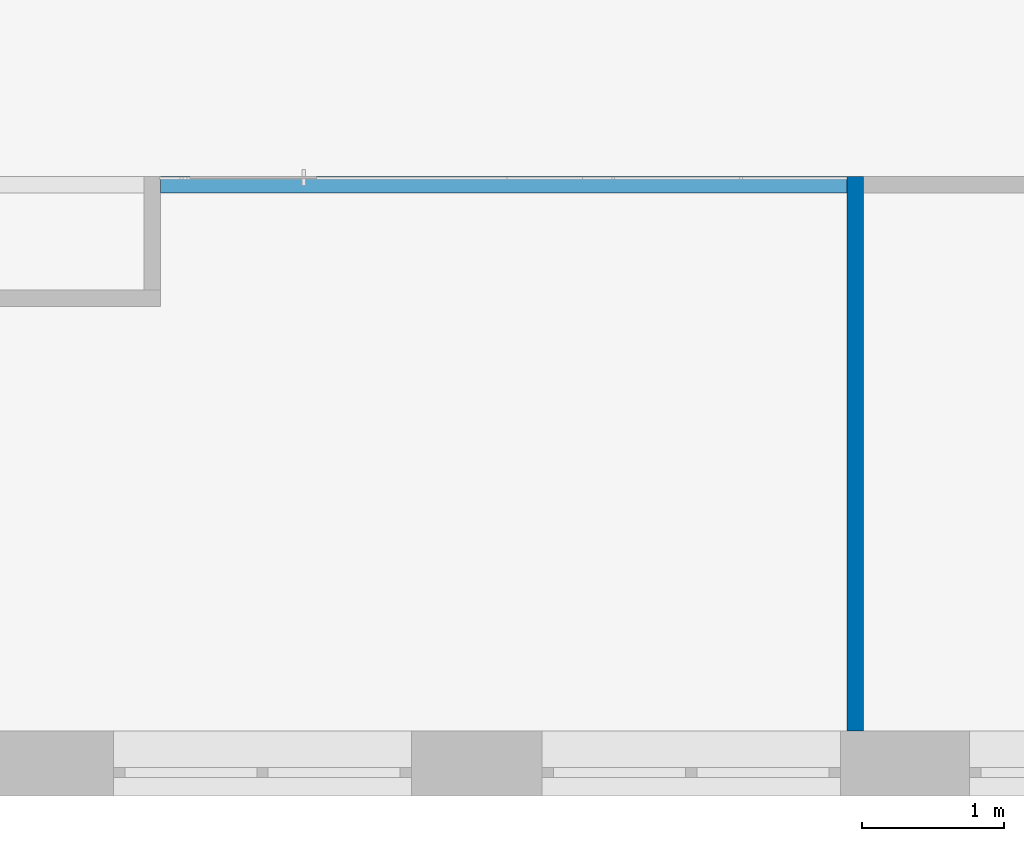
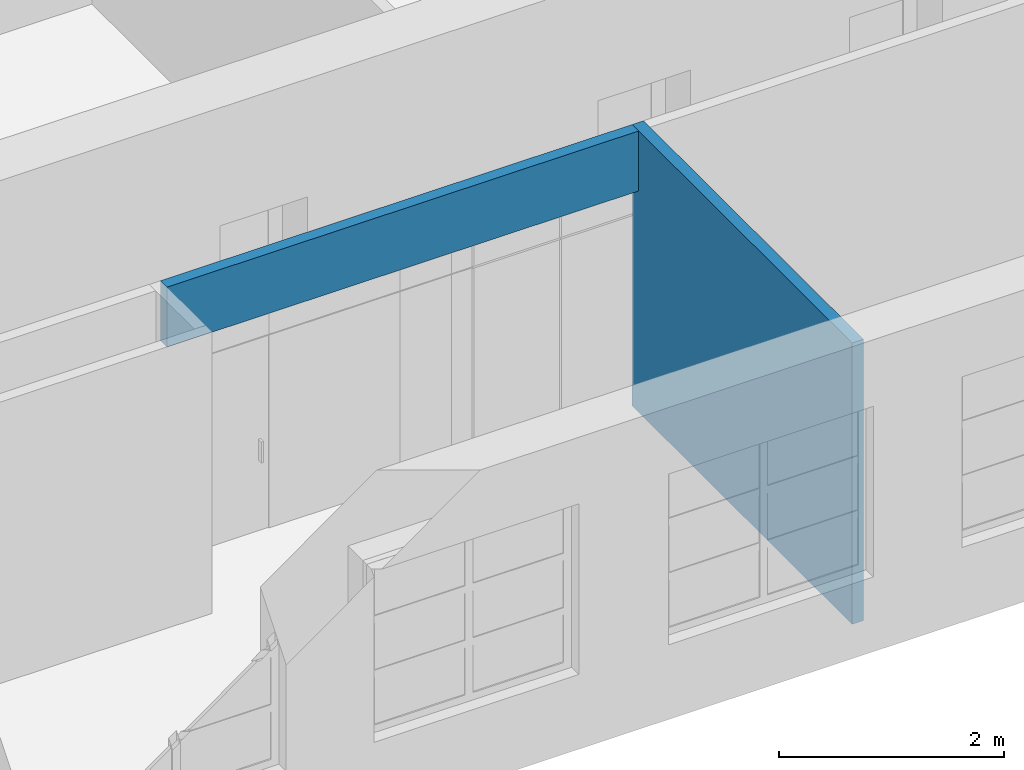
# One storey, part 48 of 66: 2 walls, 1 opening.
"""IFC2X3 building model written with IfcOpenShell, lengths in millimetres."""

from ifc_helpers import new_model, entity, si_unit, converted_unit, derived_unit, direction, frame, frame_2d, origin, place, context, subcontext, project, spatial, rectangle, extrude, material, layer, layer_set, layer_usage, type_object, element, save


model = new_model("IFC2X3")

# Units and contexts
model_context = context("Model", 3, precision=0.01, world=origin(), true_north=direction((6.12303176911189e-17, 1.0)))
body_context = subcontext(model_context, "Body", "Model", "MODEL_VIEW")
ifc_project = project(units=[si_unit("LENGTHUNIT", "METRE", prefix="MILLI"), si_unit("AREAUNIT", "SQUARE_METRE"), si_unit("VOLUMEUNIT", "CUBIC_METRE"), converted_unit("PLANEANGLEUNIT", "DEGREE", entity("IfcRatioMeasure", 0.0174532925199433), si_unit("PLANEANGLEUNIT", "RADIAN"), dimensions=[0, 0, 0, 0, 0, 0, 0]), si_unit("MASSUNIT", "GRAM", prefix="KILO"), derived_unit("MASSDENSITYUNIT", [(si_unit("MASSUNIT", "GRAM", prefix="KILO"), 1), (si_unit("LENGTHUNIT", "METRE"), -3)]), si_unit("TIMEUNIT", "SECOND"), si_unit("FREQUENCYUNIT", "HERTZ"), si_unit("THERMODYNAMICTEMPERATUREUNIT", "DEGREE_CELSIUS"), derived_unit("THERMALTRANSMITTANCEUNIT", [(si_unit("MASSUNIT", "GRAM", prefix="KILO"), 1), (si_unit("THERMODYNAMICTEMPERATUREUNIT", "KELVIN"), -1), (si_unit("TIMEUNIT", "SECOND"), -3)]), derived_unit("VOLUMETRICFLOWRATEUNIT", [(si_unit("LENGTHUNIT", "METRE"), 3), (si_unit("TIMEUNIT", "SECOND"), -1)]), si_unit("ELECTRICCURRENTUNIT", "AMPERE"), si_unit("ELECTRICVOLTAGEUNIT", "VOLT"), si_unit("POWERUNIT", "WATT"), si_unit("FORCEUNIT", "NEWTON", prefix="KILO"), si_unit("ILLUMINANCEUNIT", "LUX"), si_unit("LUMINOUSFLUXUNIT", "LUMEN"), si_unit("LUMINOUSINTENSITYUNIT", "CANDELA"), derived_unit("USERDEFINED", [(si_unit("MASSUNIT", "GRAM", prefix="KILO"), -1), (si_unit("LENGTHUNIT", "METRE"), -2), (si_unit("TIMEUNIT", "SECOND"), 3), (si_unit("LUMINOUSFLUXUNIT", "LUMEN"), 1)]), derived_unit("LINEARVELOCITYUNIT", [(si_unit("LENGTHUNIT", "METRE"), 1), (si_unit("TIMEUNIT", "SECOND"), -1)]), si_unit("PRESSUREUNIT", "PASCAL"), derived_unit("USERDEFINED", [(si_unit("LENGTHUNIT", "METRE"), -2), (si_unit("MASSUNIT", "GRAM", prefix="KILO"), 1), (si_unit("TIMEUNIT", "SECOND"), -2)])], contexts=[model_context])

# Site, building, storey
site_placement = place(None, frame((-151.875543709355, 2715.0, 0.0)))
site = spatial("IfcSite", under=ifc_project, at=site_placement, Name="Surface", CompositionType="ELEMENT")
building_placement = place(site_placement, origin())
building = spatial("IfcBuilding", under=site, at=building_placement, CompositionType="ELEMENT")
storey_placement = place(building_placement, frame((0.0, 0.0, 3350.0)))
storey = spatial("IfcBuildingStorey", under=building, at=storey_placement, Name="2 korrus", CompositionType="ELEMENT", Elevation=3350.00000000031)

# Wall
ifc_material_1 = material(Name="__Kips GN13_tava")
ifc_layer_1 = layer(ifc_material_1, 12.5)
ifc_layer_2 = layer(ifc_material_1, 12.5)
ifc_material_2 = material(Name="__Soojustus EPS")
ifc_layer_3 = layer(ifc_material_2, 66.0)
ifc_layer_4 = layer(ifc_material_1, 12.5)
ifc_layer_5 = layer(ifc_material_1, 12.5)
ifc_layer_set_1 = layer_set([ifc_layer_1, ifc_layer_2, ifc_layer_3, ifc_layer_4, ifc_layer_5], Name="Basic Wall:SS-3_Kipssein tava ruumide vahel")
ifc_layer_usage_1 = layer_usage(ifc_layer_set_1, "AXIS2", "NEGATIVE", 58.0)
wall_type_1 = type_object("IfcWallType", Name="Basic Wall:SS-3_Kipssein tava ruumide vahel", PredefinedType="STANDARD", material=ifc_layer_set_1)
wall_1_placement = place(storey_placement, frame((13173.5647264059, 4307.04493399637, 2400.0)))
element("IfcWallStandardCase", 1, at=wall_1_placement, inside=storey, type_object=wall_type_1, material=ifc_layer_usage_1, Name="Basic Wall:SS-3_Kipssein tava ruumide vahel", ObjectType="Basic Wall:SS-3_Kipssein tava ruumide vahel", context=body_context, shape_type="SweptSolid", body=[
    extrude(rectangle(XDim=4835.00000000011, YDim=116.0, at=frame_2d((2475.50000000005, -2.73558953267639e-13), x_axis=(-1.0, 0.0))), origin(), (0.0, 0.0, 1.0), 650.432033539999),
])

# Wall, opening
ifc_layer_6 = layer(ifc_material_1, 12.5)
ifc_layer_7 = layer(ifc_material_1, 12.5)
ifc_layer_8 = layer(ifc_material_2, 66.0)
ifc_layer_9 = layer(ifc_material_1, 12.5)
ifc_layer_10 = layer(ifc_material_1, 12.5)
ifc_layer_set_2 = layer_set([ifc_layer_6, ifc_layer_7, ifc_layer_8, ifc_layer_9, ifc_layer_10], Name="Basic Wall:SS-3*_Kipssein EI-60")
ifc_layer_usage_2 = layer_usage(ifc_layer_set_2, "AXIS2", "NEGATIVE", 58.0)
wall_type_2 = type_object("IfcWallType", Name="Basic Wall:SS-3*_Kipssein EI-60", PredefinedType="STANDARD", material=ifc_layer_set_2)
wall_2_placement = place(storey_placement, frame((18124.564726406, 4365.04493399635, 0.0), z_axis=(0.0, 0.0, 1.0), x_axis=(0.0, -1.0, 0.0)))
wall_2 = element("IfcWallStandardCase", 2, at=wall_2_placement, inside=storey, type_object=wall_type_2, material=ifc_layer_usage_2, Name="SEIN - 005", ObjectType="Basic Wall:SS-3*_Kipssein EI-60", context=body_context, shape_type="SweptSolid", body=[
    extrude(rectangle(XDim=3905.14030142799, YDim=116.0, at=frame_2d((1952.570150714, 0.0), x_axis=(-1.0, 0.0))), origin(), (0.0, 0.0, 1.0), 3050.43203354),
])
opening_placement = place(wall_2_placement, origin())
element("IfcOpeningElement", 3, at=opening_placement, cuts=wall_2, Name="SEIN - 005", ObjectType="Opening", context=body_context, shape_type="SweptSolid", body=[
    extrude(rectangle(XDim=2600.0, YDim=1450.00600878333, at=frame_2d((3.41060513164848e-13, 5.6843418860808e-13), x_axis=(1.0, 0.0))), frame((-822.477854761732, -58.0, 1300.0), z_axis=(0.0, 1.0, 0.0), x_axis=(0.0, 0.0, -1.0)), (0.0, 0.0, 1.0), 116.0),
])

save(model, "model.ifc")
